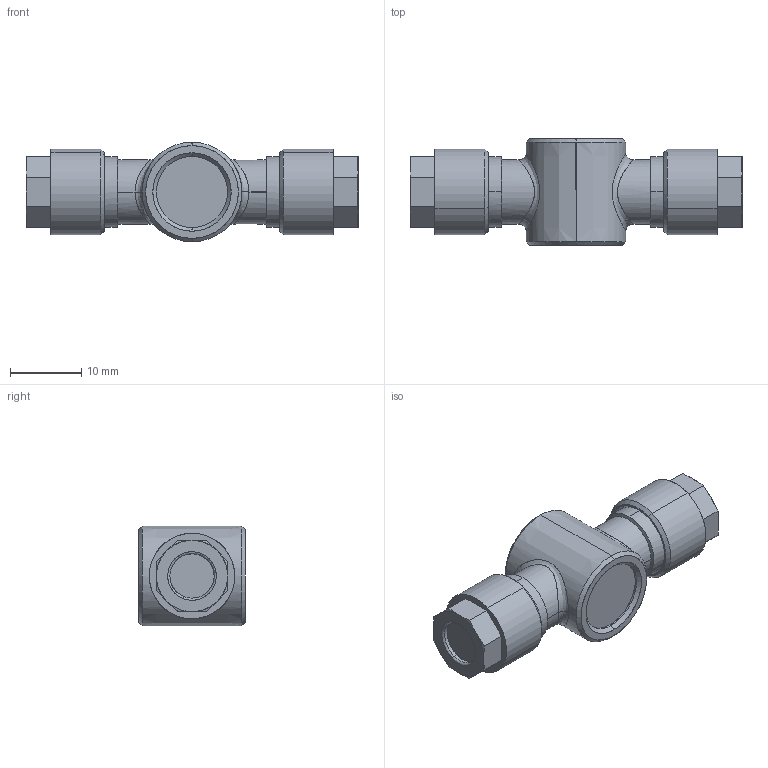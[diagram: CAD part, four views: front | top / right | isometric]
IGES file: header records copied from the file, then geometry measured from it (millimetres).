
Start section: SolidWorks IGES file using analytic representation for surfaces
Global section: file name: K:\Disegni Esecutivi\Serie 1000\Complessivi Serie 1000\1510\1510_iges\0151000006A.IGS; native system: SolidWorks 2008; preprocessor: SolidWorks 2008; author: cad05; date: 090216.092159; units: millimetre
Bounding box: 46.6 x 15 x 14 mm (x, y, z)
Surface area: 2334.8 mm2 (no closed solid volume)
Topology: 0 solids, 0 shells, 96 faces, 1178 edges, 1178 vertices
Faces by surface type: revolution 60, bspline 36
